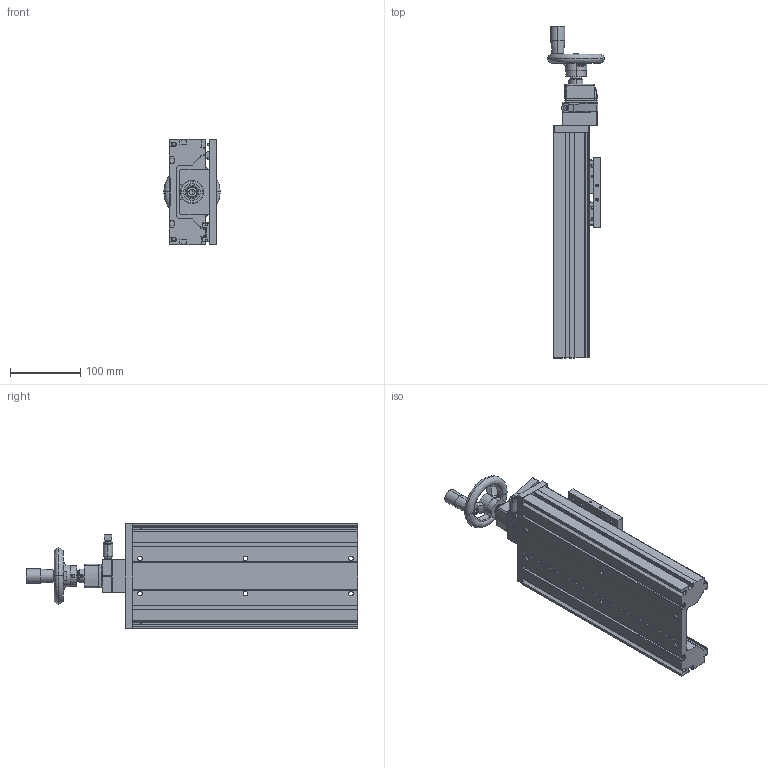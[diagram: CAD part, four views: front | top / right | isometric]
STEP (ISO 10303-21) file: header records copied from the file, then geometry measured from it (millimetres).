
FILE_DESCRIPTION (( 'STEP AP203' ), '1' );
FILE_NAME ('PT-SD320.STEP', '2022-04-10T07:33:53', ( '' ), ( '' ), 'SwSTEP 2.0', 'SolidWorks 2017', '' );
FILE_SCHEMA (( 'CONFIG_CONTROL_DESIGN' ));
Products named in the file (1): PT-SD320
Bounding box: 80 x 472 x 150 mm (x, y, z)
Volume: 1581910.9 mm3; surface area: 413571 mm2
Topology: 27 solids, 41 shells, 2300 faces, 5663 edges, 3650 vertices
Faces by surface type: plane 1177, cylinder 767, cone 332, bspline 24
Entity records: 69302 total; most frequent: CARTESIAN_POINT 13317, DIRECTION 11986, ORIENTED_EDGE 11246, EDGE_CURVE 5623, AXIS2_PLACEMENT_3D 4198, VERTEX_POINT 3649, LINE 3590, VECTOR 3590
